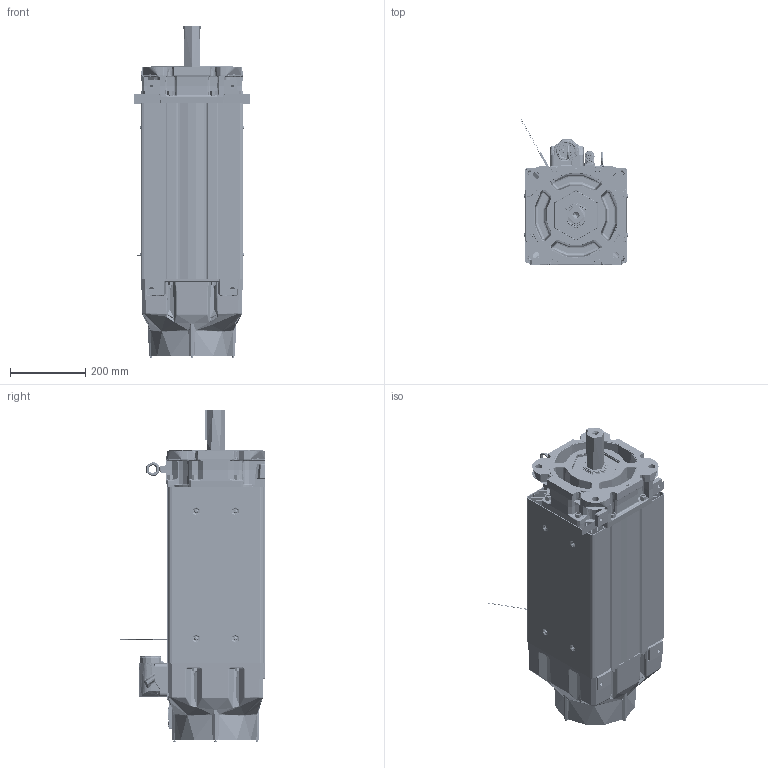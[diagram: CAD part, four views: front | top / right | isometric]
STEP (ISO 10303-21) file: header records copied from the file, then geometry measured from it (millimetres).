
FILE_DESCRIPTION((''),'2;1');
FILE_NAME('10001442216_ASM','2020-08-07T15:16:39',('PThakre'),('Rockwell Automation'),'CREO PARAMETRIC BY PTC INC, 2017380','CREO PARAMETRIC BY PTC INC, 2017380','');
FILE_SCHEMA(('CONFIG_CONTROL_DESIGN'));
Products named in the file (69): 10001438419; 10001567727; 10001557038; 10001438491; 10001439457_ASM; 10001439494_ASM; 10001441960; 10001450424_AF6; 10001404634_AF0; 10001404629_AF6; 10001404635_ASM; 10001564281; 10001585735; 10001928770; 10001442014_ASM; 10001450424_AF7; 10001439812; 10001439613; 10001439574; 10001439653_ASM; 10001877608; 10001439869; 10001440033_ASM; 10001405269_AF28; 10001405240_AF28; 10001405370_ASM; 10001586887; 10001412881; 10001585806; 10000090588; 10000172464; 0023-0372; 10002291134; 0002-5004; 10001609981; 10002291077; 10001408154; 10001737030; 10000014325-2; 10000014331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
Assembly tree (177 placements, depth 5):
  10001442216_ASM
    10001442014_ASM
      10001439494_ASM
        10001439457_ASM  x12
          10001438419
          10001567727
          10001557038
          10001438491
      10001441960
      10001450424_AF6
      10001404635_ASM
        10001404634_AF0
        10001404629_AF6
      10001564281
      10001585735  x8
      10001928770
    10001450424_AF7
    10001440033_ASM
      10001439812
      10001439653_ASM  x4
        10001439613
        10001439574
      10001877608
      10001439869
    10001405370_ASM
      10001405269_AF28
      10001405240_AF28
    10001586887  x7
    10001412881
    10001585806  x3
    10000090588
    10000172464  x7
    0023-0372
    10002291134
    0002-5004  x2
    10001609981
    10002291077
    10001408154
    10001737030
    10000014330-460_ASM
      10000014325-2
      10000014331
      10000014332-460
    10000046193_ASM
      10000046189
      10000046190
      10000046191
    10001586879  x4
    10001684407
    10001408124
    221404-Q12  x6
    10001443420_ASM
      10001946256
      10001713549_ASM
        10001956852
        10001989665
      M4X7X14-SOCHD-CAP-SCR  x4
      10001978970
      10001336508
      10001587431
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Bounding box: 309.2 x 389.97 x 882.36 mm (x, y, z)
Topology: 394 solids, 520 shells, 39641 faces, 103480 edges, 65842 vertices
Faces by surface type: plane 20378, cylinder 10395, bspline 3688, torus 2405, cone 2218, sphere 481, extrusion 75, revolution 1
Entity records: 516828 total; most frequent: CARTESIAN_POINT 196859, ORIENTED_EDGE 68837, DIRECTION 63816, EDGE_CURVE 34894, AXIS2_PLACEMENT_3D 24437, VERTEX_POINT 22548, VECTOR 14941, LINE 14866
